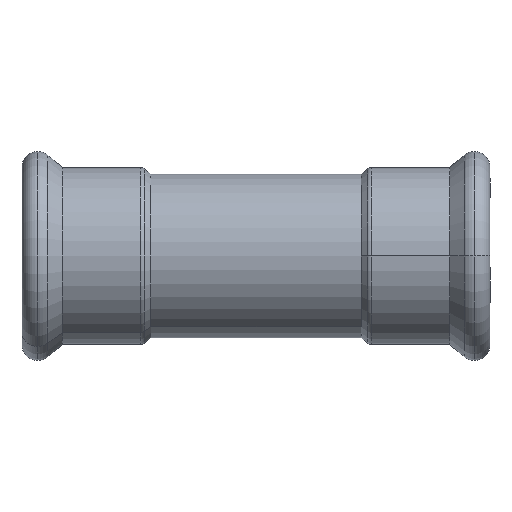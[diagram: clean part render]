
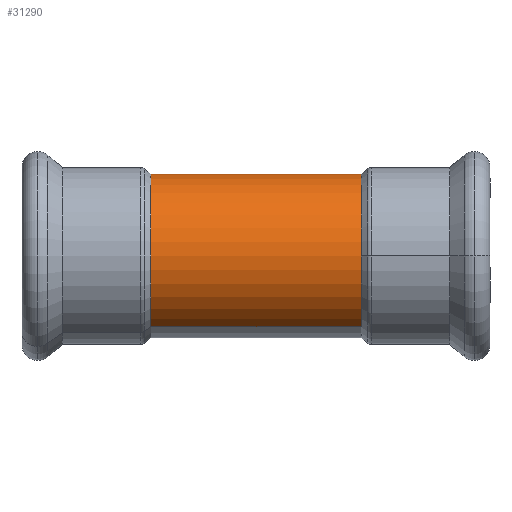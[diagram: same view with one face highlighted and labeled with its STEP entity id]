
A CAD part, front view. The second image highlights one B-rep face of the part: STEP entity #31290.
In plain terms, the highlighted cylindrical face has radius 21 mm (diameter 42 mm), a partial arc.
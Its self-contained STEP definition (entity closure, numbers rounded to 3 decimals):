
#450=CARTESIAN_POINT('',(-50.154,197.131,0.));
#460=DIRECTION('',(0.,1.,0.));
#470=DIRECTION('',(-1.,0.,0.));
#480=AXIS2_PLACEMENT_3D('',#450,#460,#470);
#490=CYLINDRICAL_SURFACE('',#480,21.);
#500=CARTESIAN_POINT('',(-71.154,197.131,0.));
#510=DIRECTION('',(0.,1.,0.));
#520=VECTOR('',#510,1.);
#530=LINE('',#500,#520);
#540=CARTESIAN_POINT('',(-71.154,143.131,0.));
#550=VERTEX_POINT('',#540);
#560=CARTESIAN_POINT('',(-71.154,197.131,0.));
#570=VERTEX_POINT('',#560);
#580=EDGE_CURVE('',#550,#570,#530,.T.);
#600=CARTESIAN_POINT('',(-50.154,197.131,
0.));
#610=DIRECTION('',(0.,1.,0.));
#620=DIRECTION('',(1.,0.,0.));
#630=AXIS2_PLACEMENT_3D('',#600,#610,#620);
#640=CIRCLE('',#630,21.);
#690=CARTESIAN_POINT('',(-29.154,197.131,
0.));
#700=VERTEX_POINT('',#690);
#730=CARTESIAN_POINT('',(-29.154,197.131,
0.));
#740=DIRECTION('',(0.,1.,0.));
#750=VECTOR('',#740,1.);
#760=LINE('',#730,#750);
#770=CARTESIAN_POINT('',(-29.154,143.131,
0.));
#780=VERTEX_POINT('',#770);
#790=EDGE_CURVE('',#780,#700,#760,.T.);
#810=CARTESIAN_POINT('',(-50.154,143.131,
0.));
#820=DIRECTION('',(0.,-1.,0.));
#830=DIRECTION('',(-0.5,0.,
0.866));
#840=AXIS2_PLACEMENT_3D('',#810,#820,#830);
#850=CIRCLE('',#840,21.);
#26650=CARTESIAN_POINT('',(-39.654,143.131,
-18.187));
#26660=VERTEX_POINT('',#26650);
#26690=EDGE_CURVE('',#550,#26660,#850,.T.);
#29440=EDGE_CURVE('',#700,#570,#640,.T.);
#29530=EDGE_CURVE('',#26660,#780,#850,.T.);
#31220=ORIENTED_EDGE('',*,*,#29440,.F.);
#31230=ORIENTED_EDGE('',*,*,#580,.T.);
#31240=ORIENTED_EDGE('',*,*,#26690,.F.);
#31250=ORIENTED_EDGE('',*,*,#29530,.F.);
#31260=ORIENTED_EDGE('',*,*,#790,.F.);
#31270=EDGE_LOOP('',(#31260,#31250,#31240,#31230,#31220));
#31280=FACE_OUTER_BOUND('',#31270,.T.);
#31290=ADVANCED_FACE('',(#31280),#490,.T.);
